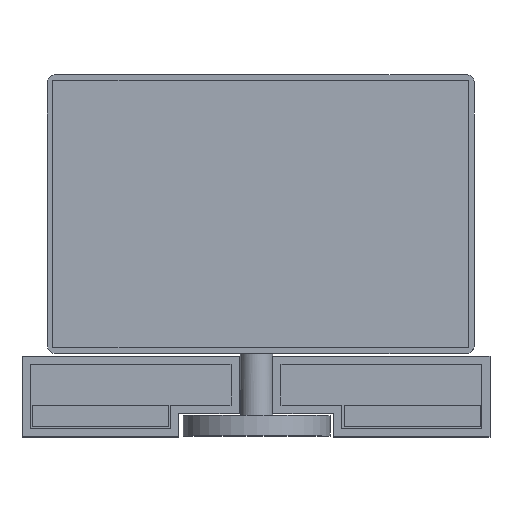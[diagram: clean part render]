
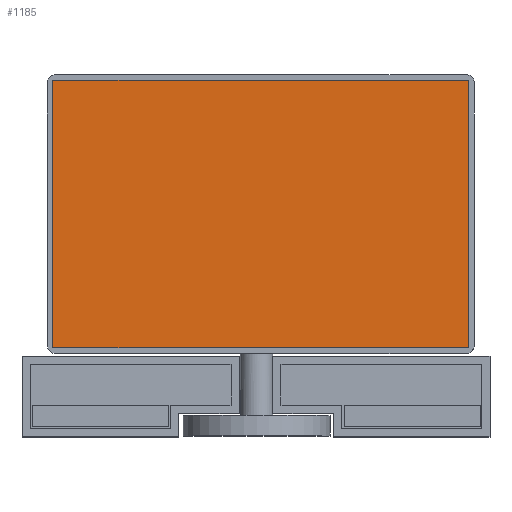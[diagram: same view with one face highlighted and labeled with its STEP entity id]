
A CAD part, top view. The second image highlights one B-rep face of the part: STEP entity #1185.
In plain terms, the highlighted planar face has unit normal (0, 0, 1).
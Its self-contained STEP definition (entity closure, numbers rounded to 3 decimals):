
#70=PLANE('',#1310);
#142=FACE_OUTER_BOUND('',#216,.T.);
#216=EDGE_LOOP('',(#889,#890,#891,#892));
#292=LINE('',#1942,#435);
#293=LINE('',#1944,#436);
#294=LINE('',#1946,#437);
#295=LINE('',#1947,#438);
#435=VECTOR('',#1440,10.);
#436=VECTOR('',#1441,10.);
#437=VECTOR('',#1442,10.);
#438=VECTOR('',#1443,10.);
#594=VERTEX_POINT('',#1940);
#595=VERTEX_POINT('',#1941);
#596=VERTEX_POINT('',#1943);
#597=VERTEX_POINT('',#1945);
#710=EDGE_CURVE('',#594,#595,#292,.T.);
#711=EDGE_CURVE('',#596,#594,#293,.T.);
#712=EDGE_CURVE('',#597,#596,#294,.T.);
#713=EDGE_CURVE('',#595,#597,#295,.T.);
#889=ORIENTED_EDGE('',*,*,#710,.F.);
#890=ORIENTED_EDGE('',*,*,#711,.F.);
#891=ORIENTED_EDGE('',*,*,#712,.F.);
#892=ORIENTED_EDGE('',*,*,#713,.F.);
#1185=ADVANCED_FACE('',(#142),#70,.T.);
#1310=AXIS2_PLACEMENT_3D('',#1939,#1438,#1439);
#1438=DIRECTION('center_axis',(0.,0.,1.));
#1439=DIRECTION('ref_axis',(1.,0.,0.));
#1440=DIRECTION('',(-1.,0.,0.));
#1441=DIRECTION('',(0.,-1.,0.));
#1442=DIRECTION('',(1.,0.,0.));
#1443=DIRECTION('',(0.,1.,0.));
#1939=CARTESIAN_POINT('Origin',(1.026,49.034,9.));
#1940=CARTESIAN_POINT('',(51.628,16.516,9.));
#1941=CARTESIAN_POINT('',(-49.576,16.516,9.));
#1942=CARTESIAN_POINT('',(26.327,16.516,9.));
#1943=CARTESIAN_POINT('',(51.628,81.551,9.));
#1944=CARTESIAN_POINT('',(51.628,65.292,9.));
#1945=CARTESIAN_POINT('',(-49.576,81.551,9.));
#1946=CARTESIAN_POINT('',(-24.275,81.551,9.));
#1947=CARTESIAN_POINT('',(-49.576,32.775,9.));
